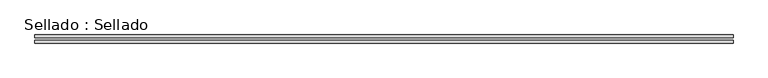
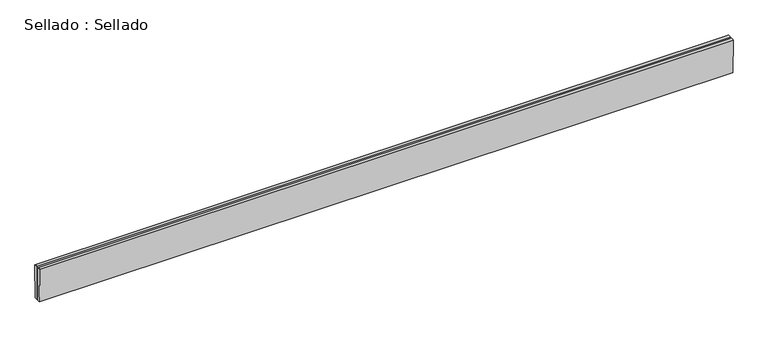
"""IFC4 building model written with IfcOpenShell, lengths in millimetres: proxy geometry, Sellado : Sellado."""

from ifc_helpers import new_model, si_unit, point, frame, frame_2d, origin, place, context, project, spatial, polyline, circle_curve, trimmed, segment, composite_curve, outline, extrude, source, transform, mapped, element, save


def sellado_sellado_5cd9687d(model_context):
    return source(origin(), model_context, "Body", "SweptSolid", [
        extrude(outline(composite_curve([segment(polyline([(15959.5302953, 850.0), (15957.0302953, 1000.0)]), True, "CONTINUOUS"), segment(trimmed(circle_curve(frame_2d((15963.2802953, 992.8109079)), 9.5260457), [point((15957.0302953, 1000.0))], [point((15969.5302953, 1000.0))], False, "CARTESIAN"), True, "CONTINUOUS"), segment(polyline([(15969.5302953, 1000.0), (15969.5302953, 850.0), (15959.5302953, 850.0)]), True, "CONTINUOUS")], self_intersect=False)), frame((4887.7202663, 0.0, 0.0), z_axis=(1.0, 0.0, 0.0), x_axis=(0.0, 1.0, 0.0)), (0.0, 0.0, 1.0), 3000.0),
        extrude(outline(composite_curve([segment(polyline([(15989.5302953, 850.0), (15979.5302953, 850.0), (15979.5302953, 1000.0)]), True, "CONTINUOUS"), segment(trimmed(circle_curve(frame_2d((15985.7802953, 992.8109079)), 9.5260457), [point((15979.5302953, 1000.0))], [point((15992.0302953, 1000.0))], False, "CARTESIAN"), True, "CONTINUOUS"), segment(polyline([(15992.0302953, 1000.0), (15989.5302953, 850.0)]), True, "CONTINUOUS")], self_intersect=False)), frame((4887.7202663, 0.0, 0.0), z_axis=(1.0, 0.0, 0.0), x_axis=(0.0, 1.0, 0.0)), (0.0, 0.0, 1.0), 3000.0),
    ])


if __name__ == "__main__":
    model = new_model("IFC4")
    model_context = context("Model", 3, world=origin())
    ifc_project = project(units=[si_unit("LENGTHUNIT", "METRE", prefix="MILLI")], contexts=[model_context])
    site = spatial("IfcSite", under=ifc_project)
    building = spatial("IfcBuilding", under=site)
    placement = place(None, origin())
    sellado_sellado_shape = sellado_sellado_5cd9687d(model_context)
    element("IfcBuildingElementProxy", 1, Name="Sellado : Sellado", ObjectType="Sellado : Sellado", at=placement, inside=building, context=model_context, shape_type="MappedRepresentation", body=[
        mapped(sellado_sellado_shape, transform((0.0, 0.0, 0.0), x_axis=(1.0, 0.0, 0.0), y_axis=(0.0, 1.0, 0.0), z_axis=(0.0, 0.0, 1.0))),
    ])
    save(model, "model.ifc")
